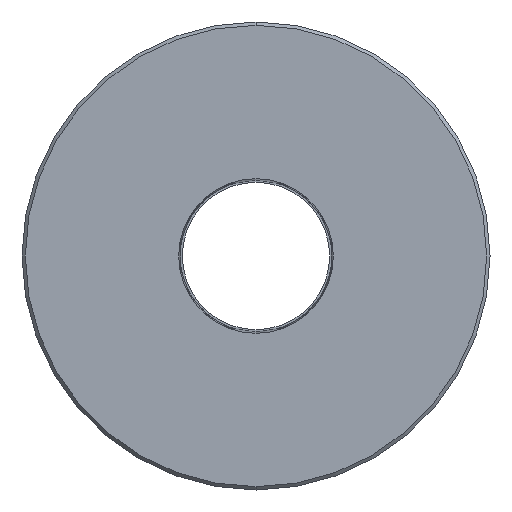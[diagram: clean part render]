
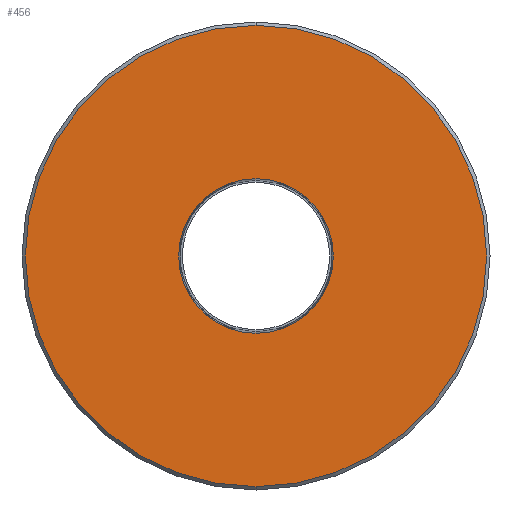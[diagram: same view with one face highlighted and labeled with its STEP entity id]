
A CAD part, front view. The second image highlights one B-rep face of the part: STEP entity #456.
In plain terms, the highlighted planar face has unit normal (0, -1, 0).
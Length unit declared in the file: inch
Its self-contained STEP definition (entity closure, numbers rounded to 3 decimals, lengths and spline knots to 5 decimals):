
#8 = DIRECTION ( 'NONE',  ( 0., 0., -1. ) ) ;
#11 = FACE_OUTER_BOUND ( 'NONE', #719, .T. ) ;
#31 = PLANE ( 'NONE',  #585 ) ;
#32 = CIRCLE ( 'NONE', #334, 1.14823 ) ;
#34 = EDGE_CURVE ( 'NONE', #872, #435, #77, .T. ) ;
#46 = EDGE_CURVE ( 'NONE', #817, #374, #420, .T. ) ;
#77 = CIRCLE ( 'NONE', #691, 1.14823 ) ;
#80 = CIRCLE ( 'NONE', #479, 3.425 ) ;
#104 = DIRECTION ( 'NONE',  ( 0., 0., 1. ) ) ;
#109 = CARTESIAN_POINT ( 'NONE',  ( 0., 0., 0. ) ) ;
#131 = CARTESIAN_POINT ( 'NONE',  ( 0., 0., 0. ) ) ;
#161 = ORIENTED_EDGE ( 'NONE', *, *, #896, .F. ) ;
#164 = CARTESIAN_POINT ( 'NONE',  ( 0., 0., -1.14823 ) ) ;
#169 = DIRECTION ( 'NONE',  ( 0., 0., -1. ) ) ;
#191 = ORIENTED_EDGE ( 'NONE', *, *, #794, .T. ) ;
#192 = DIRECTION ( 'NONE',  ( 0., 0., 1. ) ) ;
#237 = DIRECTION ( 'NONE',  ( 0., -1., 0. ) ) ;
#261 = CARTESIAN_POINT ( 'NONE',  ( 0., 0., 1.14823 ) ) ;
#334 = AXIS2_PLACEMENT_3D ( 'NONE', #109, #588, #169 ) ;
#368 = ORIENTED_EDGE ( 'NONE', *, *, #46, .T. ) ;
#372 = CARTESIAN_POINT ( 'NONE',  ( 0., 0., 0. ) ) ;
#374 = VERTEX_POINT ( 'NONE', #605 ) ;
#420 = CIRCLE ( 'NONE', #680, 3.425 ) ;
#432 = DIRECTION ( 'NONE',  ( 0., -1., 0. ) ) ;
#435 = VERTEX_POINT ( 'NONE', #261 ) ;
#444 = ORIENTED_EDGE ( 'NONE', *, *, #34, .F. ) ;
#456 = ADVANCED_FACE ( 'NONE', ( #11, #727 ), #31, .F. ) ;
#479 = AXIS2_PLACEMENT_3D ( 'NONE', #131, #616, #192 ) ;
#516 = DIRECTION ( 'NONE',  ( 0., 1., 0. ) ) ;
#518 = CARTESIAN_POINT ( 'NONE',  ( 0., 0., 3.425 ) ) ;
#585 = AXIS2_PLACEMENT_3D ( 'NONE', #372, #516, #104 ) ;
#588 = DIRECTION ( 'NONE',  ( 0., -1., 0. ) ) ;
#605 = CARTESIAN_POINT ( 'NONE',  ( 0., 0., -3.425 ) ) ;
#616 = DIRECTION ( 'NONE',  ( 0., -1., 0. ) ) ;
#649 = CARTESIAN_POINT ( 'NONE',  ( 0., 0., 0. ) ) ;
#680 = AXIS2_PLACEMENT_3D ( 'NONE', #649, #237, #715 ) ;
#691 = AXIS2_PLACEMENT_3D ( 'NONE', #848, #432, #8 ) ;
#715 = DIRECTION ( 'NONE',  ( 0., 0., 1. ) ) ;
#719 = EDGE_LOOP ( 'NONE', ( #368, #191 ) ) ;
#727 = FACE_BOUND ( 'NONE', #906, .T. ) ;
#794 = EDGE_CURVE ( 'NONE', #374, #817, #80, .T. ) ;
#817 = VERTEX_POINT ( 'NONE', #518 ) ;
#848 = CARTESIAN_POINT ( 'NONE',  ( 0., 0., 0. ) ) ;
#872 = VERTEX_POINT ( 'NONE', #164 ) ;
#896 = EDGE_CURVE ( 'NONE', #435, #872, #32, .T. ) ;
#906 = EDGE_LOOP ( 'NONE', ( #444, #161 ) ) ;
